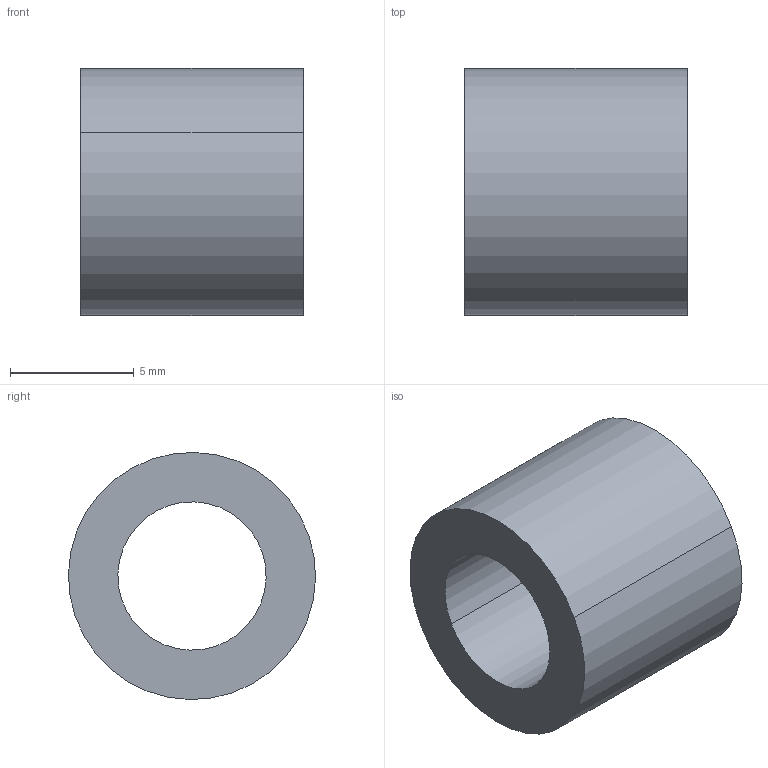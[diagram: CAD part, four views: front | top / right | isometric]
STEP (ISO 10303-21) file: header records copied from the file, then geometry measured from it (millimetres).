
FILE_DESCRIPTION(('3DEXPERIENCE STEP','CAx-IF Rec.Pracs.--- Model Styling and Organization---1.5--- 2016-08-15','CAx-IF Rec.Pracs.---Supplemental Geometry---1.0---2011-11-01','CAx-IF Rec.Pracs.--- Composite Materials ---3.4---2017-06-13','CAx-IF Rec.Pracs.---Tessellated 3D Geometry---1.0---2015-12-17'),'2;1');
FILE_NAME('\\?\D:\School\CarTech\CTU.25\Tutorials\Model\OEM\Reservoir_Distance.stp','2024-09-26T02:28:25+00:00',('none'),('none'),'3DEXPERIENCE Platform3DEXPERIENCE R2024x HotFix 4.24','3DEXPERIENCE Platform STEP AP242 v3','none');
FILE_SCHEMA(('AP242_MANAGED_MODEL_BASED_3D_ENGINEERING_MIM_LF {1 0 10303 442 1 1 4}'));
Length unit declared in the file: millimetre
Products named in the file (1): Reservoir_distance
Bounding box: 9 x 10 x 10 mm (x, y, z)
Volume: 452.4 mm3; surface area: 552.9 mm2
Topology: 1 solids, 1 shells, 6 faces, 12 edges, 8 vertices
Faces by surface type: cylinder 4, plane 2
Entity records: 169 total; most frequent: CARTESIAN_POINT 25, ORIENTED_EDGE 24, DIRECTION 20, AXIS2_PLACEMENT_3D 13, EDGE_CURVE 12, CIRCLE 8, EDGE_LOOP 8, VERTEX_POINT 8
